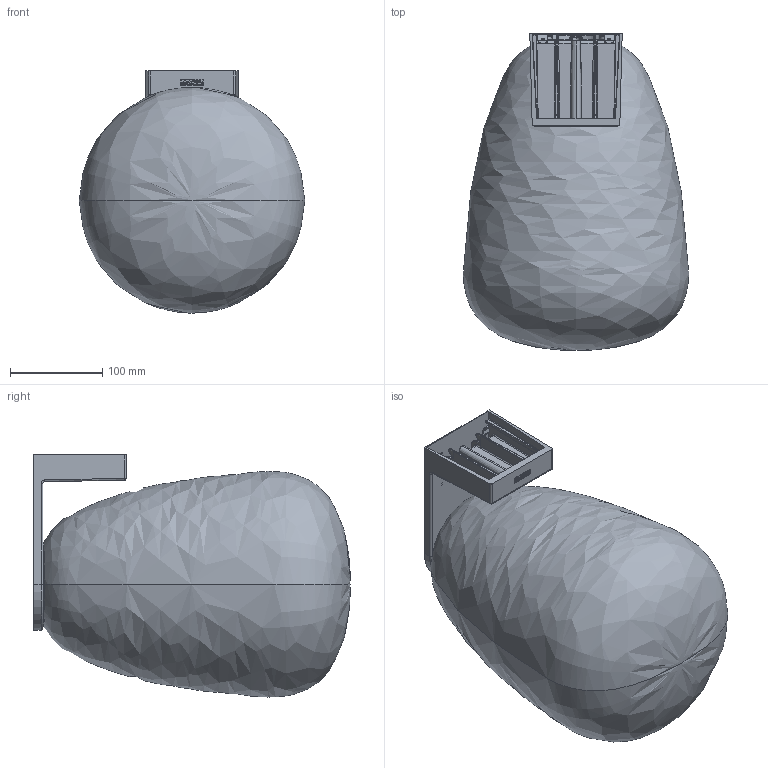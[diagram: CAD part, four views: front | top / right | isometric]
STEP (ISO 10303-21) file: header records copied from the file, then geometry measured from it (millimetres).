
FILE_DESCRIPTION (( 'STEP AP214' ), '1' );
FILE_NAME ('244_1_W_PL_3D.STEP', '2021-05-04T08:42:07', ( '' ), ( '' ), 'SwSTEP 2.0', 'SolidWorks 2021', '' );
FILE_SCHEMA (( 'AUTOMOTIVE_DESIGN' ));
Length unit declared in the file: millimetre
Products named in the file (1): 244_1_W_PL_3D
Bounding box: 244.23 x 342.7 x 262.15 mm (x, y, z)
Volume: 1334630.3 mm3; surface area: 604306.8 mm2
Topology: 6 solids, 6 shells, 1074 faces, 2566 edges, 1459 vertices
Faces by surface type: bspline 347, cylinder 252, plane 239, torus 132, cone 76, sphere 28
Entity records: 50229 total; most frequent: CARTESIAN_POINT 16467, ORIENTED_EDGE 4984, DIRECTION 4081, EDGE_CURVE 2492, AXIS2_PLACEMENT_3D 1614, VERTEX_POINT 1459, EDGE_LOOP 1121, UNCERTAINTY_MEASURE_WITH_UNIT 1082
